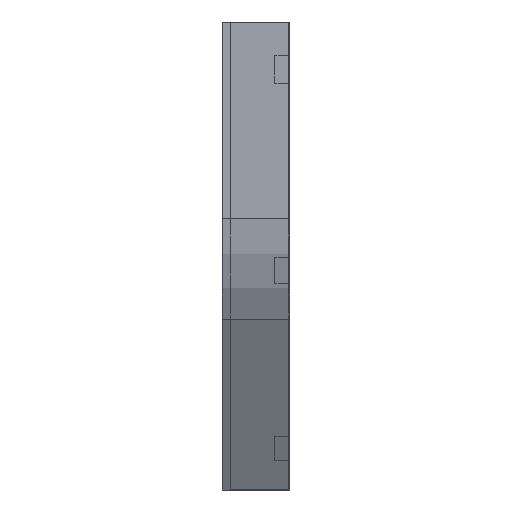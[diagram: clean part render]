
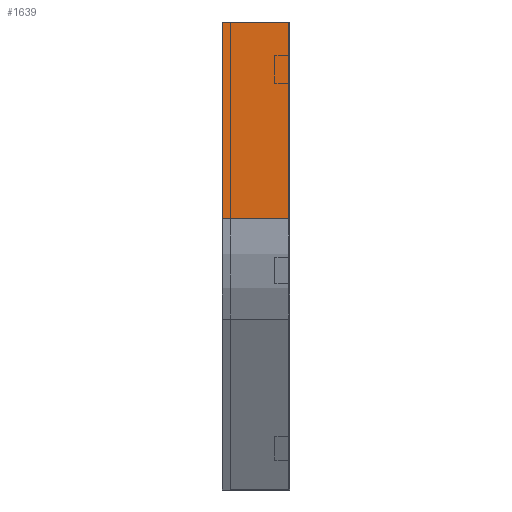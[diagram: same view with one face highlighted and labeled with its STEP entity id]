
A CAD part, left-side view. The second image highlights one B-rep face of the part: STEP entity #1639.
In plain terms, the highlighted planar face has unit normal (-1, 0, 0).
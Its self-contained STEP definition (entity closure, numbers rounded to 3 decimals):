
#97 = LINE ( 'NONE', #1086, #160 ) ;
#123 = EDGE_CURVE ( 'NONE', #1637, #620, #140, .T. ) ;
#140 = LINE ( 'NONE', #1451, #1310 ) ;
#160 = VECTOR ( 'NONE', #1651, 1000. ) ;
#288 = VECTOR ( 'NONE', #1621, 1000. ) ;
#317 = EDGE_CURVE ( 'NONE', #1637, #1749, #1756, .T. ) ;
#360 = DIRECTION ( 'NONE',  ( 0., -1., 0. ) ) ;
#445 = CARTESIAN_POINT ( 'NONE',  ( 0., 0., 0. ) ) ;
#464 = LINE ( 'NONE', #1197, #288 ) ;
#608 = DIRECTION ( 'NONE',  ( 0., 0., -1. ) ) ;
#620 = VERTEX_POINT ( 'NONE', #750 ) ;
#750 = CARTESIAN_POINT ( 'NONE',  ( 0., 100., -291.154 ) ) ;
#785 = EDGE_CURVE ( 'NONE', #620, #1192, #97, .T. ) ;
#849 = DIRECTION ( 'NONE',  ( 0., 0., -1. ) ) ;
#867 = ORIENTED_EDGE ( 'NONE', *, *, #317, .F. ) ;
#906 = VECTOR ( 'NONE', #360, 1000. ) ;
#909 = AXIS2_PLACEMENT_3D ( 'NONE', #445, #1348, #608 ) ;
#967 = CARTESIAN_POINT ( 'NONE',  ( 0., 100., 0. ) ) ;
#1086 = CARTESIAN_POINT ( 'NONE',  ( 0., 0., -291.154 ) ) ;
#1192 = VERTEX_POINT ( 'NONE', #1705 ) ;
#1197 = CARTESIAN_POINT ( 'NONE',  ( 0., 0., 0. ) ) ;
#1298 = ORIENTED_EDGE ( 'NONE', *, *, #123, .T. ) ;
#1305 = FACE_OUTER_BOUND ( 'NONE', #1470, .T. ) ;
#1310 = VECTOR ( 'NONE', #849, 1000. ) ;
#1348 = DIRECTION ( 'NONE',  ( 1., 0., 0. ) ) ;
#1358 = CARTESIAN_POINT ( 'NONE',  ( 0., 0., 0. ) ) ;
#1439 = EDGE_CURVE ( 'NONE', #1749, #1192, #464, .T. ) ;
#1451 = CARTESIAN_POINT ( 'NONE',  ( 0., 100., 0. ) ) ;
#1470 = EDGE_LOOP ( 'NONE', ( #1547, #867, #1298, #1776 ) ) ;
#1491 = CARTESIAN_POINT ( 'NONE',  ( 0., 0., 0. ) ) ;
#1547 = ORIENTED_EDGE ( 'NONE', *, *, #1439, .F. ) ;
#1621 = DIRECTION ( 'NONE',  ( 0., 0., -1. ) ) ;
#1637 = VERTEX_POINT ( 'NONE', #967 ) ;
#1639 = ADVANCED_FACE ( 'NONE', ( #1305 ), #1736, .F. ) ;
#1651 = DIRECTION ( 'NONE',  ( 0., -1., 0. ) ) ;
#1705 = CARTESIAN_POINT ( 'NONE',  ( 0., 0., -291.154 ) ) ;
#1736 = PLANE ( 'NONE',  #909 ) ;
#1749 = VERTEX_POINT ( 'NONE', #1358 ) ;
#1756 = LINE ( 'NONE', #1491, #906 ) ;
#1776 = ORIENTED_EDGE ( 'NONE', *, *, #785, .T. ) ;
